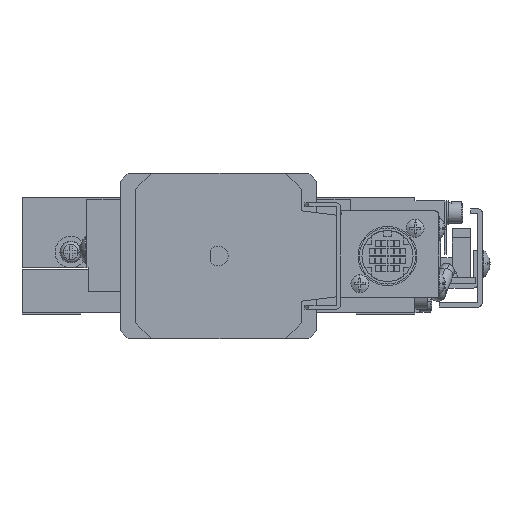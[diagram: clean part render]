
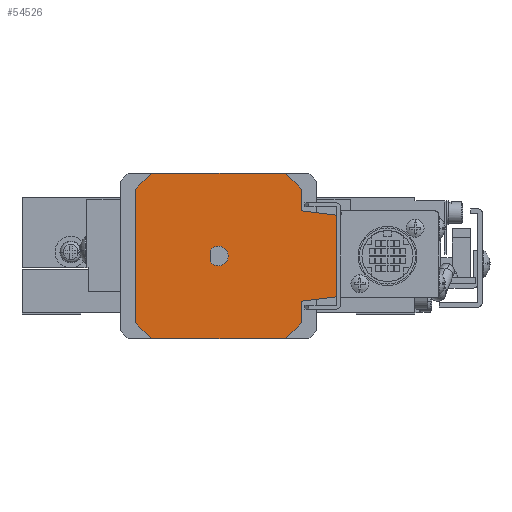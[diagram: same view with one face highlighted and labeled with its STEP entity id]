
A CAD part, left-side view. The second image highlights one B-rep face of the part: STEP entity #54526.
In plain terms, the highlighted planar face has unit normal (-1, 0, 0).
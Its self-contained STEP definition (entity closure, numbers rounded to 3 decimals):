
#82 = DIRECTION ( 'NONE',  ( 0., -0.778, -0.629 ) ) ;
#1123 = LINE ( 'NONE', #45292, #26842 ) ;
#1284 = CARTESIAN_POINT ( 'NONE',  ( -589.678, 38.241, -112.744 ) ) ;
#1673 = VERTEX_POINT ( 'NONE', #59082 ) ;
#1678 = CIRCLE ( 'NONE', #46360, 27. ) ;
#2109 = DIRECTION ( 'NONE',  ( 0., 0., -1. ) ) ;
#4002 = CARTESIAN_POINT ( 'NONE',  ( -589.678, 38.241, -112.744 ) ) ;
#4014 = CARTESIAN_POINT ( 'NONE',  ( -589.678, 55.212, -91.744 ) ) ;
#4352 = EDGE_CURVE ( 'NONE', #31831, #38261, #20638, .T. ) ;
#4822 = LINE ( 'NONE', #42808, #53393 ) ;
#5424 = DIRECTION ( 'NONE',  ( 1., 0., 0. ) ) ;
#5836 = DIRECTION ( 'NONE',  ( 0., -0.629, 0.778 ) ) ;
#6647 = CARTESIAN_POINT ( 'NONE',  ( -589.678, -15.81, -63.193 ) ) ;
#6955 = EDGE_CURVE ( 'NONE', #60128, #1673, #48399, .T. ) ;
#7190 = CARTESIAN_POINT ( 'NONE',  ( -589.678, 59.241, -129.715 ) ) ;
#8948 = EDGE_CURVE ( 'NONE', #24870, #31831, #48454, .T. ) ;
#9630 = CIRCLE ( 'NONE', #40686, 0.5 ) ;
#10844 = VECTOR ( 'NONE', #58962, 1000. ) ;
#11288 = DIRECTION ( 'NONE',  ( 0., 0.778, 0.629 ) ) ;
#11710 = EDGE_CURVE ( 'NONE', #25777, #19123, #20852, .T. ) ;
#12129 = CARTESIAN_POINT ( 'NONE',  ( -589.678, 17.241, -124.244 ) ) ;
#12180 = FACE_BOUND ( 'NONE', #13336, .T. ) ;
#13228 = EDGE_CURVE ( 'NONE', #51538, #60128, #9630, .T. ) ;
#13336 = EDGE_LOOP ( 'NONE', ( #30541, #49486 ) ) ;
#13982 = VERTEX_POINT ( 'NONE', #21254 ) ;
#14198 = DIRECTION ( 'NONE',  ( 0., -1., 0. ) ) ;
#15476 = DIRECTION ( 'NONE',  ( 0., -0.993, -0.122 ) ) ;
#16142 = CARTESIAN_POINT ( 'NONE',  ( -589.678, 8.68, -123.193 ) ) ;
#17013 = EDGE_CURVE ( 'NONE', #60052, #49197, #1123, .T. ) ;
#17592 = ORIENTED_EDGE ( 'NONE', *, *, #53672, .F. ) ;
#18223 = VERTEX_POINT ( 'NONE', #27196 ) ;
#19123 = VERTEX_POINT ( 'NONE', #52254 ) ;
#19675 = ORIENTED_EDGE ( 'NONE', *, *, #6955, .F. ) ;
#19896 = CARTESIAN_POINT ( 'NONE',  ( -589.678, 8.241, -102.792 ) ) ;
#20638 = LINE ( 'NONE', #12129, #45723 ) ;
#20683 = DIRECTION ( 'NONE',  ( 1., 0., 0. ) ) ;
#20852 = LINE ( 'NONE', #46372, #56962 ) ;
#21254 = CARTESIAN_POINT ( 'NONE',  ( -589.678, 17.241, -95.774 ) ) ;
#23470 = EDGE_CURVE ( 'NONE', #60052, #49197, #51390, .T. ) ;
#23756 = CARTESIAN_POINT ( 'NONE',  ( -589.678, 40.241, -114.244 ) ) ;
#24495 = ORIENTED_EDGE ( 'NONE', *, *, #31661, .F. ) ;
#24518 = DIRECTION ( 'NONE',  ( 1., 0., 0. ) ) ;
#24870 = VERTEX_POINT ( 'NONE', #27977 ) ;
#24874 = ORIENTED_EDGE ( 'NONE', *, *, #28522, .F. ) ;
#25176 = CARTESIAN_POINT ( 'NONE',  ( -589.678, 21.271, -133.744 ) ) ;
#25280 = ORIENTED_EDGE ( 'NONE', *, *, #47254, .F. ) ;
#25345 = CARTESIAN_POINT ( 'NONE',  ( -589.678, 17.241, -124.244 ) ) ;
#25777 = VERTEX_POINT ( 'NONE', #25176 ) ;
#26842 = VECTOR ( 'NONE', #46523, 1000. ) ;
#26911 = DIRECTION ( 'NONE',  ( 0., -0.122, 0.993 ) ) ;
#27196 = CARTESIAN_POINT ( 'NONE',  ( -589.678, 17.241, -101.244 ) ) ;
#27977 = CARTESIAN_POINT ( 'NONE',  ( -589.678, 8.68, -123.193 ) ) ;
#27991 = ORIENTED_EDGE ( 'NONE', *, *, #11710, .F. ) ;
#28522 = EDGE_CURVE ( 'NONE', #30554, #44261, #54376, .T. ) ;
#29828 = DIRECTION ( 'NONE',  ( 0., 0., -1. ) ) ;
#29911 = FACE_OUTER_BOUND ( 'NONE', #43728, .T. ) ;
#30541 = ORIENTED_EDGE ( 'NONE', *, *, #23470, .T. ) ;
#30554 = VERTEX_POINT ( 'NONE', #48582 ) ;
#30746 = VECTOR ( 'NONE', #29828, 1000. ) ;
#31387 = CARTESIAN_POINT ( 'NONE',  ( -589.678, 59.241, -95.774 ) ) ;
#31503 = LINE ( 'NONE', #51875, #35955 ) ;
#31661 = EDGE_CURVE ( 'NONE', #18223, #51538, #38518, .T. ) ;
#31831 = VERTEX_POINT ( 'NONE', #25345 ) ;
#32996 = CARTESIAN_POINT ( 'NONE',  ( -589.678, 8.741, -122.697 ) ) ;
#33193 = ORIENTED_EDGE ( 'NONE', *, *, #13228, .F. ) ;
#33357 = DIRECTION ( 'NONE',  ( 0., -1., 0. ) ) ;
#33888 = CARTESIAN_POINT ( 'NONE',  ( -589.678, 8.241, -102.792 ) ) ;
#35277 = VECTOR ( 'NONE', #35413, 1000. ) ;
#35413 = DIRECTION ( 'NONE',  ( 0., 0., 1. ) ) ;
#35935 = EDGE_CURVE ( 'NONE', #19123, #30554, #50979, .T. ) ;
#35955 = VECTOR ( 'NONE', #46318, 1000. ) ;
#37920 = EDGE_CURVE ( 'NONE', #44261, #56851, #41942, .T. ) ;
#38052 = ORIENTED_EDGE ( 'NONE', *, *, #4352, .F. ) ;
#38261 = VERTEX_POINT ( 'NONE', #46359 ) ;
#38518 = LINE ( 'NONE', #58080, #47328 ) ;
#39274 = CARTESIAN_POINT ( 'NONE',  ( -589.678, 21.271, -91.744 ) ) ;
#39568 = ORIENTED_EDGE ( 'NONE', *, *, #52622, .F. ) ;
#40686 = AXIS2_PLACEMENT_3D ( 'NONE', #59663, #59255, #26911 ) ;
#40695 = CARTESIAN_POINT ( 'NONE',  ( -589.678, 8.68, -102.296 ) ) ;
#41942 = CIRCLE ( 'NONE', #50789, 27. ) ;
#42037 = DIRECTION ( 'NONE',  ( 0., 1., 0. ) ) ;
#42135 = AXIS2_PLACEMENT_3D ( 'NONE', #32996, #24518, #14198 ) ;
#42808 = CARTESIAN_POINT ( 'NONE',  ( -589.678, 55.212, -91.744 ) ) ;
#43728 = EDGE_LOOP ( 'NONE', ( #45384, #24874, #48576, #27991, #46438, #38052, #56061, #25280, #19675, #33193, #24495, #57240, #17592, #39568 ) ) ;
#44261 = VERTEX_POINT ( 'NONE', #31387 ) ;
#44376 = EDGE_CURVE ( 'NONE', #38261, #25777, #50940, .T. ) ;
#44400 = CARTESIAN_POINT ( 'NONE',  ( -589.678, 38.241, -112.744 ) ) ;
#45292 = CARTESIAN_POINT ( 'NONE',  ( -589.678, 40.241, -111.244 ) ) ;
#45384 = ORIENTED_EDGE ( 'NONE', *, *, #37920, .F. ) ;
#45438 = CIRCLE ( 'NONE', #42135, 0.5 ) ;
#45723 = VECTOR ( 'NONE', #49440, 1000. ) ;
#46318 = DIRECTION ( 'NONE',  ( 0., 0., -1. ) ) ;
#46359 = CARTESIAN_POINT ( 'NONE',  ( -589.678, 17.241, -129.715 ) ) ;
#46360 = AXIS2_PLACEMENT_3D ( 'NONE', #1284, #5424, #5836 ) ;
#46372 = CARTESIAN_POINT ( 'NONE',  ( -589.678, 21.271, -133.744 ) ) ;
#46438 = ORIENTED_EDGE ( 'NONE', *, *, #44376, .F. ) ;
#46523 = DIRECTION ( 'NONE',  ( 0., 0., -1. ) ) ;
#46814 = DIRECTION ( 'NONE',  ( 1., 0., 0. ) ) ;
#46848 = AXIS2_PLACEMENT_3D ( 'NONE', #4002, #46814, #82 ) ;
#47182 = AXIS2_PLACEMENT_3D ( 'NONE', #44400, #20683, #53846 ) ;
#47254 = EDGE_CURVE ( 'NONE', #1673, #24870, #45438, .T. ) ;
#47328 = VECTOR ( 'NONE', #15476, 1000. ) ;
#48275 = AXIS2_PLACEMENT_3D ( 'NONE', #55104, #50205, #50609 ) ;
#48389 = DIRECTION ( 'NONE',  ( 1., 0., 0. ) ) ;
#48399 = LINE ( 'NONE', #19896, #30746 ) ;
#48454 = LINE ( 'NONE', #16142, #10844 ) ;
#48576 = ORIENTED_EDGE ( 'NONE', *, *, #35935, .F. ) ;
#48582 = CARTESIAN_POINT ( 'NONE',  ( -589.678, 59.241, -129.715 ) ) ;
#49197 = VERTEX_POINT ( 'NONE', #23756 ) ;
#49440 = DIRECTION ( 'NONE',  ( 0., 0., -1. ) ) ;
#49486 = ORIENTED_EDGE ( 'NONE', *, *, #17013, .F. ) ;
#50205 = DIRECTION ( 'NONE',  ( 1., 0., 0. ) ) ;
#50558 = CARTESIAN_POINT ( 'NONE',  ( -589.678, 40.241, -111.244 ) ) ;
#50609 = DIRECTION ( 'NONE',  ( 0., 0.8, 0.6 ) ) ;
#50789 = AXIS2_PLACEMENT_3D ( 'NONE', #53507, #48389, #11288 ) ;
#50940 = CIRCLE ( 'NONE', #46848, 27. ) ;
#50979 = CIRCLE ( 'NONE', #47182, 27. ) ;
#51255 = EDGE_CURVE ( 'NONE', #13982, #18223, #31503, .T. ) ;
#51390 = CIRCLE ( 'NONE', #48275, 2.5 ) ;
#51538 = VERTEX_POINT ( 'NONE', #40695 ) ;
#51875 = CARTESIAN_POINT ( 'NONE',  ( -589.678, 17.241, -95.774 ) ) ;
#52254 = CARTESIAN_POINT ( 'NONE',  ( -589.678, 55.212, -133.744 ) ) ;
#52622 = EDGE_CURVE ( 'NONE', #56851, #57665, #4822, .T. ) ;
#53393 = VECTOR ( 'NONE', #33357, 1000. ) ;
#53507 = CARTESIAN_POINT ( 'NONE',  ( -589.678, 38.241, -112.744 ) ) ;
#53672 = EDGE_CURVE ( 'NONE', #57665, #13982, #1678, .T. ) ;
#53846 = DIRECTION ( 'NONE',  ( 0., 0.629, -0.778 ) ) ;
#54376 = LINE ( 'NONE', #7190, #35277 ) ;
#54526 = ADVANCED_FACE ( 'NONE', ( #29911, #12180 ), #59297, .F. ) ;
#55104 = CARTESIAN_POINT ( 'NONE',  ( -589.678, 38.241, -112.744 ) ) ;
#56061 = ORIENTED_EDGE ( 'NONE', *, *, #8948, .F. ) ;
#56851 = VERTEX_POINT ( 'NONE', #4014 ) ;
#56962 = VECTOR ( 'NONE', #42037, 1000. ) ;
#57070 = AXIS2_PLACEMENT_3D ( 'NONE', #6647, #58683, #2109 ) ;
#57240 = ORIENTED_EDGE ( 'NONE', *, *, #51255, .F. ) ;
#57665 = VERTEX_POINT ( 'NONE', #39274 ) ;
#58080 = CARTESIAN_POINT ( 'NONE',  ( -589.678, 17.241, -101.244 ) ) ;
#58683 = DIRECTION ( 'NONE',  ( 1., 0., 0. ) ) ;
#58962 = DIRECTION ( 'NONE',  ( 0., 0.993, -0.122 ) ) ;
#59082 = CARTESIAN_POINT ( 'NONE',  ( -589.678, 8.241, -122.697 ) ) ;
#59255 = DIRECTION ( 'NONE',  ( 1., 0., 0. ) ) ;
#59297 = PLANE ( 'NONE',  #57070 ) ;
#59663 = CARTESIAN_POINT ( 'NONE',  ( -589.678, 8.741, -102.792 ) ) ;
#60052 = VERTEX_POINT ( 'NONE', #50558 ) ;
#60128 = VERTEX_POINT ( 'NONE', #33888 ) ;
